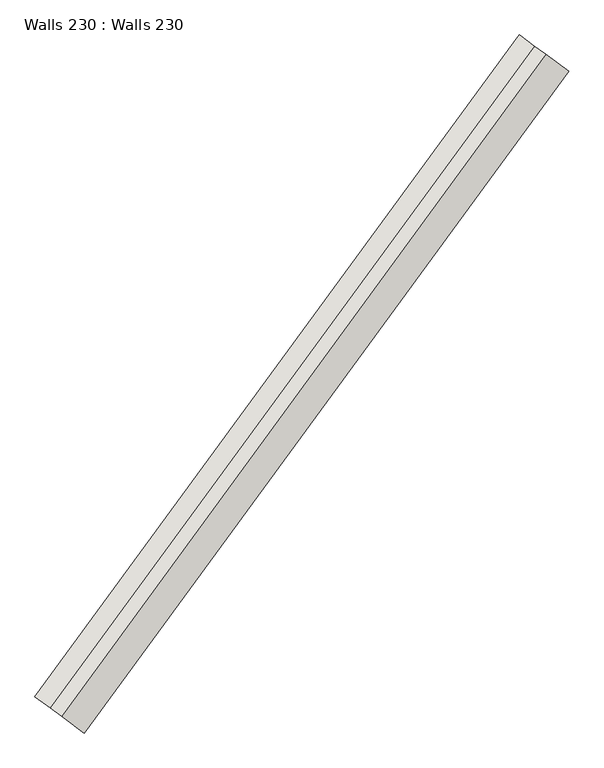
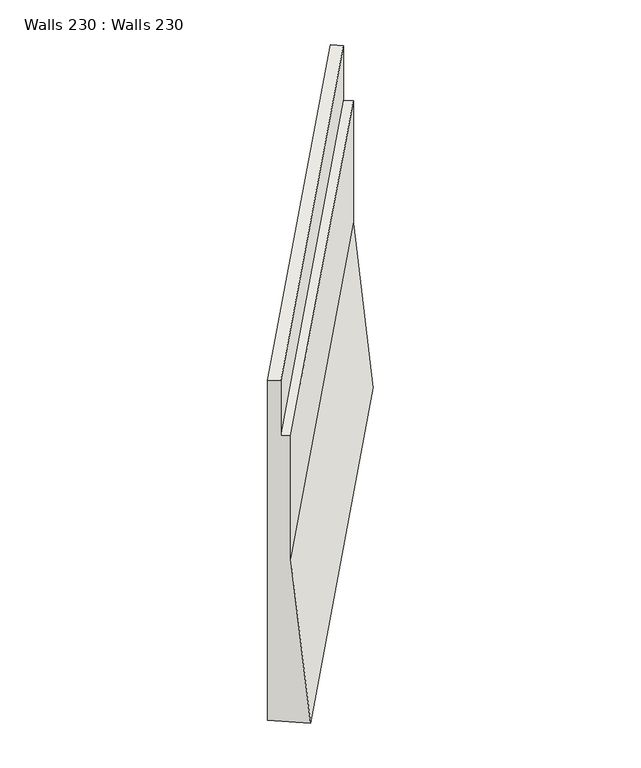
"""IFC4 building model written with IfcOpenShell, lengths in millimetres: wall geometry, Walls 230 : Walls 230."""

from ifc_helpers import new_model, si_unit, origin, place, context, project, spatial, faceted_brep, source, transform, mapped, element, save


def walls_230_walls_230_a4c6ec3f(model_context):
    return source(origin(), model_context, "Body", "Brep", [
        faceted_brep([(427575.8969386, 305887.7288547, 646386.9), (427333.8864486, 306065.0165382, 649386.9), (427333.8864486, 306065.0165382, 651643.6), (427212.8812036, 306153.6603799, 651643.6), (427212.8812036, 306153.6603799, 652643.6), (427051.5408769, 306271.8521689, 652643.6), (427051.5408769, 306271.8521689, 646386.9), (432717.2397598, 312906.0330664, 646499.1), (432192.883698, 313290.1563806, 646499.1), (432192.883698, 313290.1563806, 652752.5), (432354.2240247, 313171.9645916, 652752.5), (432354.2240247, 313171.9645916, 651752.5), (432475.2292698, 313083.3207499, 651752.5), (432475.2292698, 313083.3207499, 649499.1)], [[[0, 1, 2, 3, 4, 5, 6]], [[7, 8, 9, 10, 11, 12, 13]], [[7, 13, 1, 0]], [[13, 12, 2, 1]], [[12, 11, 3, 2]], [[11, 10, 4, 3]], [[10, 9, 5, 4]], [[9, 8, 6, 5]], [[8, 7, 0, 6]]]),
    ])


if __name__ == "__main__":
    model = new_model("IFC4")
    model_context = context("Model", 3, world=origin())
    ifc_project = project(units=[si_unit("LENGTHUNIT", "METRE", prefix="MILLI")], contexts=[model_context])
    site = spatial("IfcSite", under=ifc_project)
    building = spatial("IfcBuilding", under=site)
    placement = place(None, origin())
    walls_230_walls_230_shape = walls_230_walls_230_a4c6ec3f(model_context)
    element("IfcWall", 1, ObjectType="Walls 230 : Walls 230", at=placement, inside=building, context=model_context, shape_type="MappedRepresentation", body=[
        mapped(walls_230_walls_230_shape, transform((0.0, 0.0, 0.0), x_axis=(1.0, 0.0, 0.0), y_axis=(0.0, 1.0, 0.0), z_axis=(0.0, 0.0, 1.0))),
    ])
    save(model, "model.ifc")
